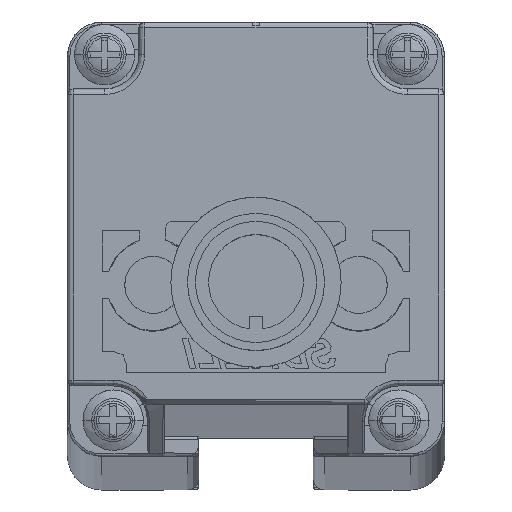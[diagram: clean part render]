
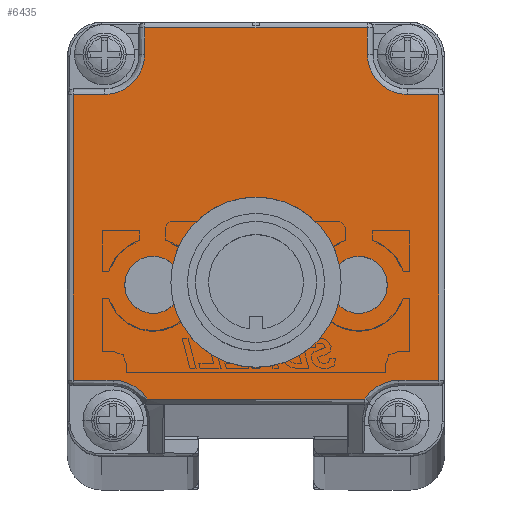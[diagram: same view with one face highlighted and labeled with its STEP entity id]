
A CAD part, top view. The second image highlights one B-rep face of the part: STEP entity #6435.
In plain terms, the highlighted planar face has unit normal (0, 0, 1).
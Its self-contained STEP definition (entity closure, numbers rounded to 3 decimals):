
#2629=CARTESIAN_POINT('',(0.65,-8.054,
1565.276));
#2630=DIRECTION('',(0.,0.,1.));
#2631=DIRECTION('',(1.,0.,0.));
#2632=AXIS2_PLACEMENT_3D('',#2629,#2630,#2631);
#2634=CARTESIAN_POINT('',(0.65,-8.054,
1565.276));
#2635=DIRECTION('',(0.,0.,1.));
#2636=DIRECTION('',(-1.,0.,0.));
#2637=AXIS2_PLACEMENT_3D('',#2634,#2635,#2636);
#2639=CARTESIAN_POINT('',(9.65,-8.055,1565.276));
#2640=DIRECTION('',(0.,0.,1.));
#2641=DIRECTION('',(1.,-0.007,0.));
#2642=AXIS2_PLACEMENT_3D('',#2639,#2640,#2641);
#2644=CARTESIAN_POINT('',(9.65,-8.055,1565.276));
#2645=DIRECTION('',(0.,0.,1.));
#2646=DIRECTION('',(-1.,0.007,0.));
#2647=AXIS2_PLACEMENT_3D('',#2644,#2645,#2646);
#2649=CARTESIAN_POINT('',(-8.35,-8.054,
1565.276));
#2650=DIRECTION('',(0.,0.,1.));
#2651=DIRECTION('',(1.,0.007,0.));
#2652=AXIS2_PLACEMENT_3D('',#2649,#2650,#2651);
#2654=CARTESIAN_POINT('',(-8.35,-8.054,
1565.276));
#2655=DIRECTION('',(0.,0.,1.));
#2656=DIRECTION('',(-1.,-0.007,0.));
#2657=AXIS2_PLACEMENT_3D('',#2654,#2655,#2656);
#2659=CARTESIAN_POINT('',(-11.85,-19.904,
1565.276));
#2660=DIRECTION('',(0.,0.,1.));
#2661=DIRECTION('',(0.849,0.528,0.));
#2662=AXIS2_PLACEMENT_3D('',#2659,#2660,#2661);
#2664=CARTESIAN_POINT('',(-12.6,12.094,1565.276));
#2665=DIRECTION('',(0.,0.,1.));
#2666=DIRECTION('',(0.,-1.,0.));
#2667=AXIS2_PLACEMENT_3D('',#2664,#2665,#2666);
#2669=CARTESIAN_POINT('',(13.9,12.094,1565.276));
#2670=DIRECTION('',(0.,0.,1.));
#2671=DIRECTION('',(-1.,0.,0.));
#2672=AXIS2_PLACEMENT_3D('',#2669,#2670,#2671);
#2674=CARTESIAN_POINT('',(13.15,-19.904,1565.276));
#2675=DIRECTION('',(0.,0.,1.));
#2676=DIRECTION('',(0.,1.,0.));
#2677=AXIS2_PLACEMENT_3D('',#2674,#2675,#2676);
#4186=DIRECTION('',(1.,0.,0.));
#4187=VECTOR('',#4186,19.056);
#4188=CARTESIAN_POINT('',(-8.878,-18.056,
1565.276));
#4189=LINE('',#4188,#4187);
#4728=DIRECTION('',(0.,1.,0.));
#4729=VECTOR('',#4728,2.35);
#4730=CARTESIAN_POINT('',(10.4,12.094,1565.276));
#4731=LINE('',#4730,#4729);
#4751=DIRECTION('',(-1.,0.,0.));
#4752=VECTOR('',#4751,19.5);
#4753=CARTESIAN_POINT('',(10.4,14.444,1565.276));
#4754=LINE('',#4753,#4752);
#4775=DIRECTION('',(0.,-1.,0.));
#4776=VECTOR('',#4775,2.35);
#4777=CARTESIAN_POINT('',(-9.1,14.444,1565.276));
#4778=LINE('',#4777,#4776);
#4802=DIRECTION('',(-1.,0.,0.));
#4803=VECTOR('',#4802,2.75);
#4804=CARTESIAN_POINT('',(-12.6,8.594,1565.276));
#4805=LINE('',#4804,#4803);
#4833=DIRECTION('',(0.,-1.,0.));
#4834=VECTOR('',#4833,24.998);
#4835=CARTESIAN_POINT('',(-15.35,8.594,1565.276));
#4836=LINE('',#4835,#4834);
#4857=DIRECTION('',(1.,0.,0.));
#4858=VECTOR('',#4857,3.5);
#4859=CARTESIAN_POINT('',(-15.35,-16.404,
1565.276));
#4860=LINE('',#4859,#4858);
#4921=DIRECTION('',(-1.,0.,0.));
#4922=VECTOR('',#4921,2.75);
#4923=CARTESIAN_POINT('',(16.65,8.594,1565.276));
#4924=LINE('',#4923,#4922);
#5154=DIRECTION('',(1.,0.,0.));
#5155=VECTOR('',#5154,3.5);
#5156=CARTESIAN_POINT('',(13.15,-16.404,1565.276));
#5157=LINE('',#5156,#5155);
#5185=DIRECTION('',(0.,1.,0.));
#5186=VECTOR('',#5185,24.998);
#5187=CARTESIAN_POINT('',(16.65,-16.404,1565.276));
#5188=LINE('',#5187,#5186);
#5581=CARTESIAN_POINT('',(12.15,-8.072,1565.276));
#5582=VERTEX_POINT('',#5581);
#5583=CARTESIAN_POINT('',(7.15,-8.039,1565.276));
#5584=VERTEX_POINT('',#5583);
#5585=CARTESIAN_POINT('',(-8.878,-18.056,
1565.276));
#5586=CARTESIAN_POINT('',(-11.85,-16.404,
1565.276));
#5587=VERTEX_POINT('',#5585);
#5588=VERTEX_POINT('',#5586);
#5589=CARTESIAN_POINT('',(-15.35,-16.404,
1565.276));
#5590=VERTEX_POINT('',#5589);
#5591=CARTESIAN_POINT('',(-15.35,8.594,1565.276));
#5592=VERTEX_POINT('',#5591);
#5593=CARTESIAN_POINT('',(-12.6,8.594,1565.276));
#5594=VERTEX_POINT('',#5593);
#5595=CARTESIAN_POINT('',(-9.1,12.094,1565.276));
#5596=VERTEX_POINT('',#5595);
#5597=CARTESIAN_POINT('',(-9.1,14.444,1565.276));
#5598=VERTEX_POINT('',#5597);
#5599=CARTESIAN_POINT('',(10.4,14.444,1565.276));
#5600=VERTEX_POINT('',#5599);
#5601=CARTESIAN_POINT('',(10.4,12.094,1565.276));
#5602=VERTEX_POINT('',#5601);
#5603=CARTESIAN_POINT('',(13.9,8.594,1565.276));
#5604=VERTEX_POINT('',#5603);
#5605=CARTESIAN_POINT('',(16.65,8.594,1565.276));
#5606=VERTEX_POINT('',#5605);
#5607=CARTESIAN_POINT('',(16.65,-16.404,1565.276));
#5608=VERTEX_POINT('',#5607);
#5609=CARTESIAN_POINT('',(13.15,-16.404,1565.276));
#5610=VERTEX_POINT('',#5609);
#5611=CARTESIAN_POINT('',(10.178,-18.056,1565.276));
#5612=VERTEX_POINT('',#5611);
#5613=CARTESIAN_POINT('',(-5.85,-8.037,
1565.276));
#5614=CARTESIAN_POINT('',(-10.85,-8.07,
1565.276));
#5615=VERTEX_POINT('',#5613);
#5616=VERTEX_POINT('',#5614);
#5617=CARTESIAN_POINT('',(3.65,-8.054,1565.276));
#5618=CARTESIAN_POINT('',(-2.35,-8.054,
1565.276));
#5619=VERTEX_POINT('',#5617);
#5620=VERTEX_POINT('',#5618);
#6384=CARTESIAN_POINT('',(0.65,0.944,
1565.276));
#6385=DIRECTION('',(0.,0.,1.));
#6386=DIRECTION('',(1.,0.,0.));
#6387=AXIS2_PLACEMENT_3D('',#6384,#6385,#6386);
#6388=PLANE('',#6387);
#6390=ORIENTED_EDGE('',*,*,#6389,.T.);
#6392=ORIENTED_EDGE('',*,*,#6391,.F.);
#6394=ORIENTED_EDGE('',*,*,#6393,.F.);
#6396=ORIENTED_EDGE('',*,*,#6395,.F.);
#6398=ORIENTED_EDGE('',*,*,#6397,.T.);
#6400=ORIENTED_EDGE('',*,*,#6399,.F.);
#6402=ORIENTED_EDGE('',*,*,#6401,.F.);
#6404=ORIENTED_EDGE('',*,*,#6403,.F.);
#6406=ORIENTED_EDGE('',*,*,#6405,.T.);
#6408=ORIENTED_EDGE('',*,*,#6407,.F.);
#6410=ORIENTED_EDGE('',*,*,#6409,.F.);
#6412=ORIENTED_EDGE('',*,*,#6411,.F.);
#6414=ORIENTED_EDGE('',*,*,#6413,.T.);
#6416=ORIENTED_EDGE('',*,*,#6415,.F.);
#6417=EDGE_LOOP('',(#6390,#6392,#6394,#6396,#6398,#6400,#6402,#6404,#6406,#6408,
#6410,#6412,#6414,#6416));
#6418=FACE_OUTER_BOUND('',#6417,.F.);
#6419=ORIENTED_EDGE('',*,*,#6371,.T.);
#6420=ORIENTED_EDGE('',*,*,#6332,.T.);
#6421=EDGE_LOOP('',(#6419,#6420));
#6422=FACE_BOUND('',#6421,.F.);
#6424=ORIENTED_EDGE('',*,*,#6423,.T.);
#6426=ORIENTED_EDGE('',*,*,#6425,.T.);
#6427=EDGE_LOOP('',(#6424,#6426));
#6428=FACE_BOUND('',#6427,.F.);
#6430=ORIENTED_EDGE('',*,*,#6429,.T.);
#6432=ORIENTED_EDGE('',*,*,#6431,.T.);
#6433=EDGE_LOOP('',(#6430,#6432));
#6434=FACE_BOUND('',#6433,.F.);
#2633=CIRCLE('',#2632,3.);
#2638=CIRCLE('',#2637,3.);
#2643=CIRCLE('',#2642,2.5);
#2648=CIRCLE('',#2647,2.5);
#2653=CIRCLE('',#2652,2.5);
#2658=CIRCLE('',#2657,2.5);
#2663=CIRCLE('',#2662,3.5);
#2668=CIRCLE('',#2667,3.5);
#2673=CIRCLE('',#2672,3.5);
#2678=CIRCLE('',#2677,3.5);
#6332=EDGE_CURVE('',#5584,#5582,#2648,.T.);
#6371=EDGE_CURVE('',#5582,#5584,#2643,.T.);
#6389=EDGE_CURVE('',#5587,#5588,#2663,.T.);
#6391=EDGE_CURVE('',#5590,#5588,#4860,.T.);
#6393=EDGE_CURVE('',#5592,#5590,#4836,.T.);
#6395=EDGE_CURVE('',#5594,#5592,#4805,.T.);
#6397=EDGE_CURVE('',#5594,#5596,#2668,.T.);
#6399=EDGE_CURVE('',#5598,#5596,#4778,.T.);
#6401=EDGE_CURVE('',#5600,#5598,#4754,.T.);
#6403=EDGE_CURVE('',#5602,#5600,#4731,.T.);
#6405=EDGE_CURVE('',#5602,#5604,#2673,.T.);
#6407=EDGE_CURVE('',#5606,#5604,#4924,.T.);
#6409=EDGE_CURVE('',#5608,#5606,#5188,.T.);
#6411=EDGE_CURVE('',#5610,#5608,#5157,.T.);
#6413=EDGE_CURVE('',#5610,#5612,#2678,.T.);
#6415=EDGE_CURVE('',#5587,#5612,#4189,.T.);
#6423=EDGE_CURVE('',#5615,#5616,#2653,.T.);
#6425=EDGE_CURVE('',#5616,#5615,#2658,.T.);
#6429=EDGE_CURVE('',#5619,#5620,#2633,.T.);
#6431=EDGE_CURVE('',#5620,#5619,#2638,.T.);
#6435=ADVANCED_FACE('',(#6418,#6422,#6428,#6434),#6388,.T.);
